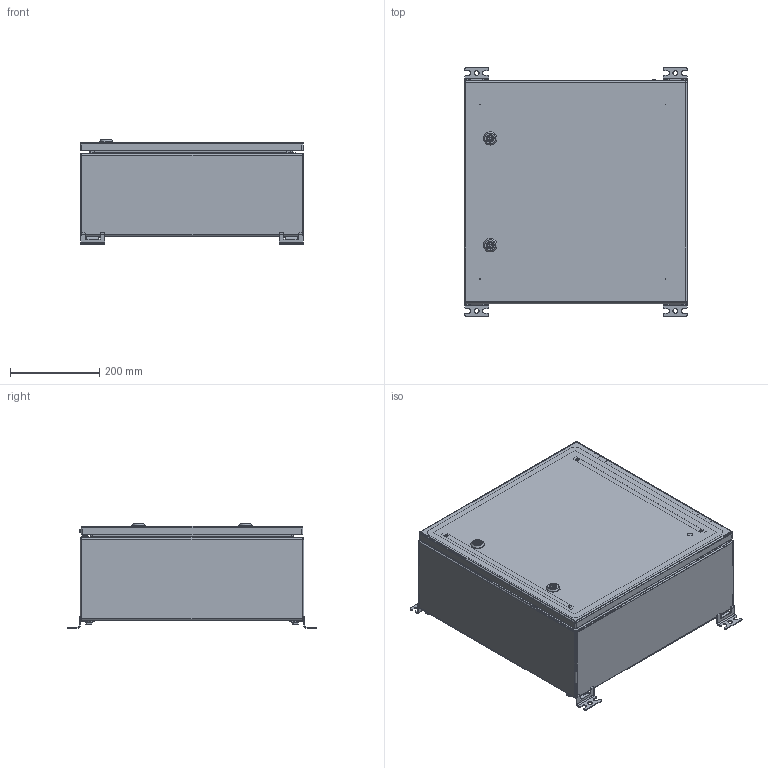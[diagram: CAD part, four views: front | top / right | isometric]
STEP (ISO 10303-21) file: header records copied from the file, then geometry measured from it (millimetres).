
FILE_DESCRIPTION(('STEP AP242'), '1');
FILE_NAME('400 ﾙﾌﾏ-1 (IP-56)', '', ('UNSPECIFIED'), ('UNSPECIFIED'), 'C3D Converter', 'C3D Toolkit', '');
FILE_SCHEMA(('AP242_MANAGED_MODEL_BASED_3D_ENGINEERING_MIM_LF { 1 0 10303 442 1 1 4 }'));
Length unit declared in the file: millimetre
Products named in the file (47): ЩМП-1-Ф СБ; 410-Ф; 420; 421; 411-Ф; 412; 490; 491; 401.01; 440-Ф; 441-Ф; 402; 450; 451; ЦИУЛ.210677.00.03-03; 452
Assembly tree (100 placements, depth 4):
  ЩМП-1-Ф СБ
    410-Ф
      420
        421
        (unnamed)  x4
        (unnamed)
      411-Ф
      412
    490  x2
      491
      (unnamed)
      (unnamed)
      (unnamed)
      (unnamed)
      (unnamed)
    490  x2
      491
      (unnamed)
      (unnamed)
      (unnamed)
      (unnamed)
      (unnamed)
    401.01
    (unnamed)  x4
    (unnamed)  x4
    (unnamed)  x4
    (unnamed)  x4
    (unnamed)  x2
      (unnamed)
      (unnamed)
      (unnamed)
    (unnamed)  x4
    440-Ф
      441-Ф
      (unnamed)
      (unnamed)  x4
      (unnamed)  x2
    402  x2
    (unnamed)  x4
    (unnamed)  x4
    (unnamed)  x2
      (unnamed)
      (unnamed)
      (unnamed)
      (unnamed)
      (unnamed)
    (unnamed)  x2
    450
      451
      (unnamed)  x3
      (unnamed)  x2
      (unnamed)  x2
      (unnamed)  x3
      ЦИУЛ.210677.00.03-03
      452
      (unnamed)
      (unnamed)  x2
Bounding box: 500 x 556 x 233.1 mm (x, y, z)
Volume: 2186317.8 mm3; surface area: 2621247.4 mm2
Topology: 112 solids, 112 shells, 2374 faces, 5712 edges, 3618 vertices
Faces by surface type: plane 1330, cylinder 671, cone 227, extrusion 54, bspline 32, sphere 31, torus 29
Full cylindrical faces by diameter (mm): 0.5 x4, 2.6 x8, 3.3 x1, 3.5 x60, 4 x1, 4.134 x3, 4.2 x5, 4.917 x4, 5 x9, 5.3 x2, 5.5 x11, 5.75 x3, 5.8 x2, 6 x18, 6.4 x4, 6.647 x8, 7 x6, 7.3 x4, 7.4 x1, 7.5 x6, 8 x14, 8.376 x4, 8.4 x8, 8.5 x19, 9 x12, 10 x10, 10.4 x2, 10.5 x6, 11 x4, 11.4 x1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
Entity records: 69029 total; most frequent: CARTESIAN_POINT 36198, DIRECTION 5400, ORIENTED_EDGE 5252, EDGE_CURVE 2626, AXIS2_PLACEMENT_3D 1955, VERTEX_POINT 1760, VECTOR 1490, EDGE_LOOP 1482
